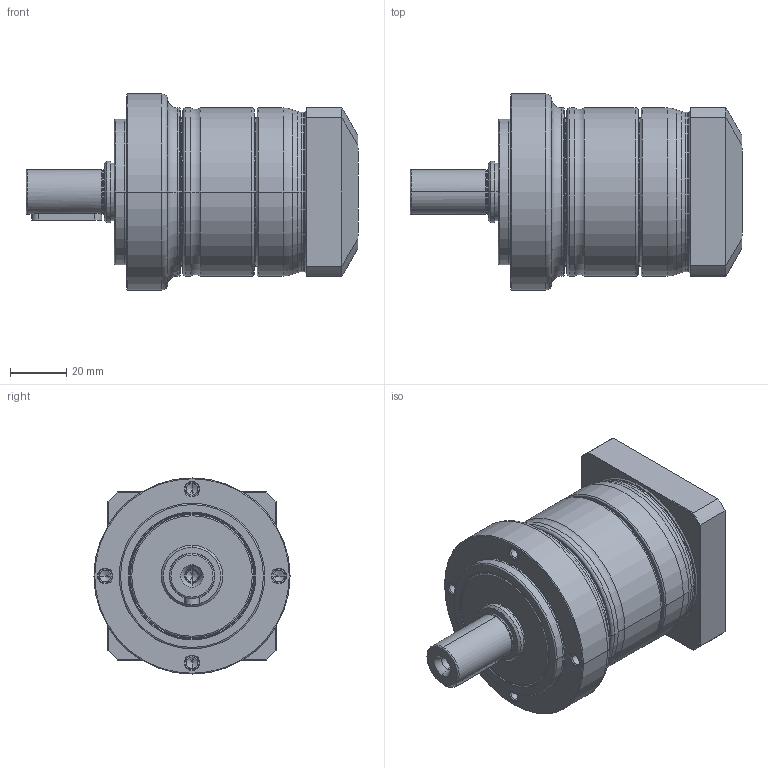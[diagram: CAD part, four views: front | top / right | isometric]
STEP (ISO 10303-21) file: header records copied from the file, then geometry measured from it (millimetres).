
FILE_DESCRIPTION((''),'2;1');
FILE_NAME('PE2-070_1ST_11-P0411200101_ASM','2016-04-21T',('d00435'),(''),'PRO/ENGINEER BY PARAMETRIC TECHNOLOGY CORPORATION, 2008410','PRO/ENGINEER BY PARAMETRIC TECHNOLOGY CORPORATION, 2008410','');
FILE_SCHEMA(('CONFIG_CONTROL_DESIGN'));
Length unit declared in the file: millimetre
Products named in the file (9): P1323210001; P0250200001; P1324200101; P0350201001; P0941201001; P0503200005; P0411200101; P1702300001; PE2-070_1ST_11-P0411200101_ASM
Assembly tree (8 placements, depth 2):
  PE2-070_1ST_11-P0411200101_ASM
    P1323210001
    P0250200001
    P1324200101
    P0350201001
    P0941201001
    P0503200005
    P0411200101
    P1702300001
Bounding box: 118.5 x 70 x 70 mm (x, y, z)
Volume: 222479.1 mm3; surface area: 70587.9 mm2
Topology: 8 solids, 22 shells, 517 faces, 1162 edges, 688 vertices
Faces by surface type: cylinder 164, cone 142, torus 100, plane 95, bspline 16
Entity records: 19208 total; most frequent: CARTESIAN_POINT 7360, DIRECTION 2723, ORIENTED_EDGE 2196, AXIS2_PLACEMENT_3D 1178, EDGE_CURVE 1126, VERTEX_POINT 688, CIRCLE 650, EDGE_LOOP 596
